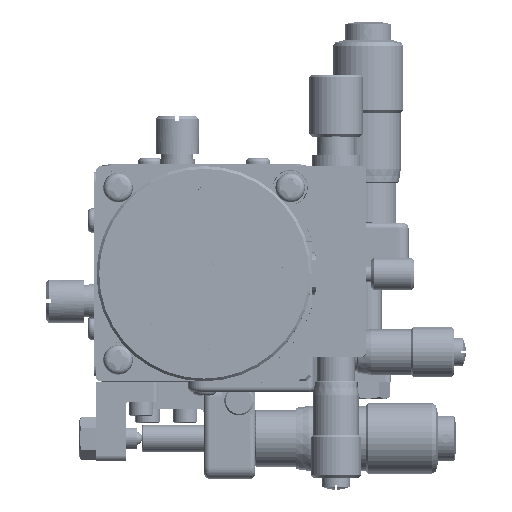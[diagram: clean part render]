
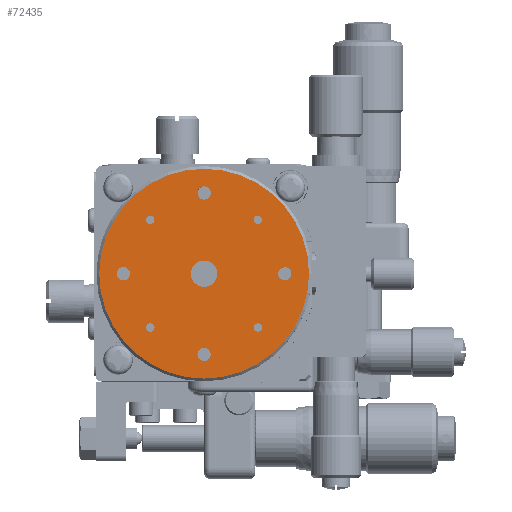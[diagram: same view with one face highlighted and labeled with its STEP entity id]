
A CAD part, top view. The second image highlights one B-rep face of the part: STEP entity #72435.
In plain terms, the highlighted planar face has unit normal (0, 0, 1).
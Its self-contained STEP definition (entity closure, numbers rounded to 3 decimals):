
#72320=CARTESIAN_POINT('',(0.0,0.0,0.0));
#72321=DIRECTION('',(0.0,0.0,-1.0));
#72322=DIRECTION('',(-1.0,0.0,0.0));
#72323=AXIS2_PLACEMENT_3D('',#72320,#72321,#72322);
#72324=PLANE('',#72323);
#72325=CARTESIAN_POINT('',(19.5,0.,0.0));
#72326=VERTEX_POINT('',#72325);
#72327=CARTESIAN_POINT('',(0.0,0.0,0.0));
#72328=DIRECTION('',(0.0,0.0,-1.0));
#72329=DIRECTION('',(-1.0,0.0,0.0));
#72330=AXIS2_PLACEMENT_3D('',#72327,#72328,#72329);
#72331=CIRCLE('',#72330,19.5);
#72332=EDGE_CURVE('',#72326,#72326,#72331,.T.);
#72333=ORIENTED_EDGE('',*,*,#72332,.F.);
#72334=EDGE_LOOP('',(#72333));
#72335=FACE_OUTER_BOUND('',#72334,.T.);
#72336=CARTESIAN_POINT('',(10.784,-10.0,0.0));
#72337=VERTEX_POINT('',#72336);
#72338=CARTESIAN_POINT('',(10.0,-10.0,0.0));
#72339=DIRECTION('',(0.0,0.0,-1.0));
#72340=DIRECTION('',(1.0,0.0,0.0));
#72341=AXIS2_PLACEMENT_3D('',#72338,#72339,#72340);
#72342=CIRCLE('',#72341,0.784);
#72343=EDGE_CURVE('',#72337,#72337,#72342,.T.);
#72344=ORIENTED_EDGE('',*,*,#72343,.T.);
#72345=EDGE_LOOP('',(#72344));
#72346=FACE_BOUND('',#72345,.T.);
#72347=CARTESIAN_POINT('',(-9.217,-10.0,0.0));
#72348=VERTEX_POINT('',#72347);
#72349=CARTESIAN_POINT('',(-10.0,-10.0,0.0));
#72350=DIRECTION('',(0.0,0.0,-1.0));
#72351=DIRECTION('',(1.0,0.0,0.0));
#72352=AXIS2_PLACEMENT_3D('',#72349,#72350,#72351);
#72353=CIRCLE('',#72352,0.784);
#72354=EDGE_CURVE('',#72348,#72348,#72353,.T.);
#72355=ORIENTED_EDGE('',*,*,#72354,.T.);
#72356=EDGE_LOOP('',(#72355));
#72357=FACE_BOUND('',#72356,.T.);
#72358=CARTESIAN_POINT('',(10.784,10.0,0.0));
#72359=VERTEX_POINT('',#72358);
#72360=CARTESIAN_POINT('',(10.0,10.0,0.0));
#72361=DIRECTION('',(0.0,0.0,-1.0));
#72362=DIRECTION('',(1.0,0.0,0.0));
#72363=AXIS2_PLACEMENT_3D('',#72360,#72361,#72362);
#72364=CIRCLE('',#72363,0.784);
#72365=EDGE_CURVE('',#72359,#72359,#72364,.T.);
#72366=ORIENTED_EDGE('',*,*,#72365,.T.);
#72367=EDGE_LOOP('',(#72366));
#72368=FACE_BOUND('',#72367,.T.);
#72369=CARTESIAN_POINT('',(-9.217,10.0,0.0));
#72370=VERTEX_POINT('',#72369);
#72371=CARTESIAN_POINT('',(-10.0,10.0,0.0));
#72372=DIRECTION('',(0.0,0.0,-1.0));
#72373=DIRECTION('',(1.0,0.0,0.0));
#72374=AXIS2_PLACEMENT_3D('',#72371,#72372,#72373);
#72375=CIRCLE('',#72374,0.784);
#72376=EDGE_CURVE('',#72370,#72370,#72375,.T.);
#72377=ORIENTED_EDGE('',*,*,#72376,.T.);
#72378=EDGE_LOOP('',(#72377));
#72379=FACE_BOUND('',#72378,.T.);
#72380=CARTESIAN_POINT('',(2.459,0.0,0.0));
#72381=VERTEX_POINT('',#72380);
#72382=CARTESIAN_POINT('',(0.0,0.0,0.0));
#72383=DIRECTION('',(0.0,0.0,-1.0));
#72384=DIRECTION('',(1.0,0.0,0.0));
#72385=AXIS2_PLACEMENT_3D('',#72382,#72383,#72384);
#72386=CIRCLE('',#72385,2.459);
#72387=EDGE_CURVE('',#72381,#72381,#72386,.T.);
#72388=ORIENTED_EDGE('',*,*,#72387,.T.);
#72389=EDGE_LOOP('',(#72388));
#72390=FACE_BOUND('',#72389,.T.);
#72391=CARTESIAN_POINT('',(15.0,-1.23,0.0));
#72392=VERTEX_POINT('',#72391);
#72393=CARTESIAN_POINT('',(15.0,0.,0.0));
#72394=DIRECTION('',(0.0,0.0,-1.0));
#72395=DIRECTION('',(0.0,-1.0,0.0));
#72396=AXIS2_PLACEMENT_3D('',#72393,#72394,#72395);
#72397=CIRCLE('',#72396,1.23);
#72398=EDGE_CURVE('',#72392,#72392,#72397,.T.);
#72399=ORIENTED_EDGE('',*,*,#72398,.T.);
#72400=EDGE_LOOP('',(#72399));
#72401=FACE_BOUND('',#72400,.T.);
#72402=CARTESIAN_POINT('',(-1.23,-15.0,0.0));
#72403=VERTEX_POINT('',#72402);
#72404=CARTESIAN_POINT('',(0.,-15.0,0.0));
#72405=DIRECTION('',(0.0,0.0,-1.0));
#72406=DIRECTION('',(-1.0,0.0,0.0));
#72407=AXIS2_PLACEMENT_3D('',#72404,#72405,#72406);
#72408=CIRCLE('',#72407,1.23);
#72409=EDGE_CURVE('',#72403,#72403,#72408,.T.);
#72410=ORIENTED_EDGE('',*,*,#72409,.T.);
#72411=EDGE_LOOP('',(#72410));
#72412=FACE_BOUND('',#72411,.T.);
#72413=CARTESIAN_POINT('',(-15.0,1.23,0.0));
#72414=VERTEX_POINT('',#72413);
#72415=CARTESIAN_POINT('',(-15.0,0.,0.0));
#72416=DIRECTION('',(0.0,0.0,-1.0));
#72417=DIRECTION('',(0.0,1.0,0.0));
#72418=AXIS2_PLACEMENT_3D('',#72415,#72416,#72417);
#72419=CIRCLE('',#72418,1.23);
#72420=EDGE_CURVE('',#72414,#72414,#72419,.T.);
#72421=ORIENTED_EDGE('',*,*,#72420,.T.);
#72422=EDGE_LOOP('',(#72421));
#72423=FACE_BOUND('',#72422,.T.);
#72424=CARTESIAN_POINT('',(1.23,15.0,0.0));
#72425=VERTEX_POINT('',#72424);
#72426=CARTESIAN_POINT('',(0.0,15.0,0.0));
#72427=DIRECTION('',(0.0,0.0,-1.0));
#72428=DIRECTION('',(1.0,0.0,0.0));
#72429=AXIS2_PLACEMENT_3D('',#72426,#72427,#72428);
#72430=CIRCLE('',#72429,1.23);
#72431=EDGE_CURVE('',#72425,#72425,#72430,.T.);
#72432=ORIENTED_EDGE('',*,*,#72431,.T.);
#72433=EDGE_LOOP('',(#72432));
#72434=FACE_BOUND('',#72433,.T.);
#72435=ADVANCED_FACE('',(#72335,#72346,#72357,#72368,#72379,#72390,#72401,#72412,#72423,#72434),#72324,.F.);
